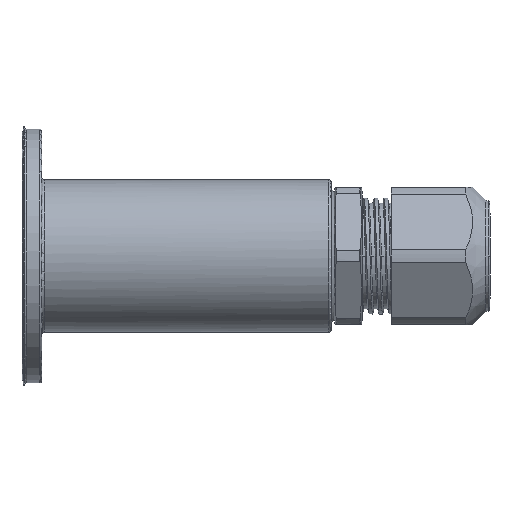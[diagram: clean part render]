
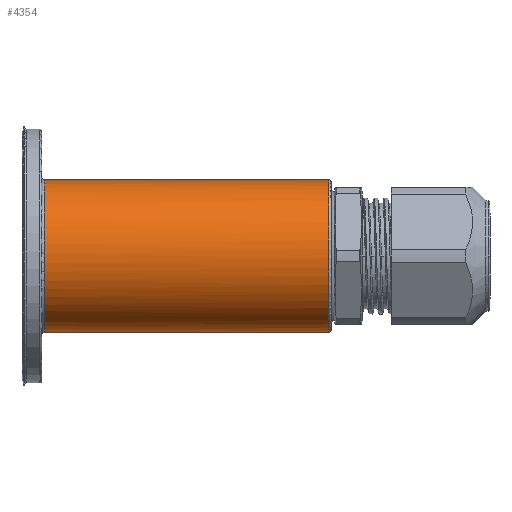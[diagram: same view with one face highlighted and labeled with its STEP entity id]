
A CAD part, front view. The second image highlights one B-rep face of the part: STEP entity #4354.
In plain terms, the highlighted cylindrical face has radius 15 mm (diameter 30 mm), a partial arc.
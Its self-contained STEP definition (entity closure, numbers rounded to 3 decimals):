
#283 = DIRECTION ( 'NONE',  ( 0., 0., 1. ) ) ;
#494 = B_SPLINE_CURVE_WITH_KNOTS ( 'NONE', 3,
 ( #5983, #3811, #590, #3667 ),
 .UNSPECIFIED., .F., .F.,
 ( 4, 4 ),
 ( 0., 1. ),
 .UNSPECIFIED. ) ;
#590 = CARTESIAN_POINT ( 'NONE',  ( 22.167, 0., -15. ) ) ;
#715 = CARTESIAN_POINT ( 'NONE',  ( 3.5, 0., 15. ) ) ;
#759 = CARTESIAN_POINT ( 'NONE',  ( 3.5, -1.963, -15. ) ) ;
#913 = ORIENTED_EDGE ( 'NONE', *, *, #1541, .F. ) ;
#960 = EDGE_CURVE ( 'NONE', #8047, #9920, #1309, .T. ) ;
#1030 = CYLINDRICAL_SURFACE ( 'NONE', #1439, 15. ) ;
#1309 = B_SPLINE_CURVE_WITH_KNOTS ( 'NONE', 3,
 ( #715, #8307, #5390, #3081, #7645, #4446, #6148, #6002, #2128, #8454, #1368, #9205, #3780, #3831, #9812, #2938, #759, #7699 ),
 .UNSPECIFIED., .F., .F.,
 ( 4, 2, 2, 2, 2, 2, 2, 2, 4 ),
 ( 0., 0.125, 0.25, 0.375, 0.5, 0.625, 0.75, 0.875, 1. ),
 .UNSPECIFIED. ) ;
#1320 = CARTESIAN_POINT ( 'NONE',  ( 59.5, -7.554, 13.107 ) ) ;
#1335 = CARTESIAN_POINT ( 'NONE',  ( 40.833, 0., 15. ) ) ;
#1368 = CARTESIAN_POINT ( 'NONE',  ( 3.5, -14.61, -3.926 ) ) ;
#1377 = ORIENTED_EDGE ( 'NONE', *, *, #9244, .T. ) ;
#1439 = AXIS2_PLACEMENT_3D ( 'NONE', #4104, #9523, #283 ) ;
#1483 = VERTEX_POINT ( 'NONE', #4308 ) ;
#1541 = EDGE_CURVE ( 'NONE', #8047, #1483, #4068, .T. ) ;
#1545 = CARTESIAN_POINT ( 'NONE',  ( 59.5, 0., -15. ) ) ;
#1818 = B_SPLINE_CURVE_WITH_KNOTS ( 'NONE', 3,
 ( #3341, #2482, #4893, #3391, #7857, #2581, #6453, #3289, #9413, #9514, #4944, #2531, #5601, #8657, #1320, #5957, #8055, #5197 ),
 .UNSPECIFIED., .F., .F.,
 ( 4, 2, 2, 2, 2, 2, 2, 2, 4 ),
 ( 0., 0.125, 0.25, 0.375, 0.5, 0.625, 0.75, 0.875, 1. ),
 .UNSPECIFIED. ) ;
#2128 = CARTESIAN_POINT ( 'NONE',  ( 3.5, -15., 1.963 ) ) ;
#2482 = CARTESIAN_POINT ( 'NONE',  ( 59.5, -1.963, -15. ) ) ;
#2531 = CARTESIAN_POINT ( 'NONE',  ( 59.5, -13.107, 7.554 ) ) ;
#2581 = CARTESIAN_POINT ( 'NONE',  ( 59.5, -11.995, -9.218 ) ) ;
#2938 = CARTESIAN_POINT ( 'NONE',  ( 3.5, -3.926, -14.61 ) ) ;
#3047 = CARTESIAN_POINT ( 'NONE',  ( 59.5, 0., 15. ) ) ;
#3081 = CARTESIAN_POINT ( 'NONE',  ( 3.5, -7.554, 13.107 ) ) ;
#3289 = CARTESIAN_POINT ( 'NONE',  ( 59.5, -14.61, -3.926 ) ) ;
#3341 = CARTESIAN_POINT ( 'NONE',  ( 59.5, 0., -15. ) ) ;
#3391 = CARTESIAN_POINT ( 'NONE',  ( 59.5, -7.554, -13.107 ) ) ;
#3667 = CARTESIAN_POINT ( 'NONE',  ( 3.5, 0., -15. ) ) ;
#3780 = CARTESIAN_POINT ( 'NONE',  ( 3.5, -11.995, -9.218 ) ) ;
#3811 = CARTESIAN_POINT ( 'NONE',  ( 40.833, 0., -15. ) ) ;
#3831 = CARTESIAN_POINT ( 'NONE',  ( 3.5, -9.218, -11.995 ) ) ;
#4068 = B_SPLINE_CURVE_WITH_KNOTS ( 'NONE', 3,
 ( #8422, #5971, #1335, #3047 ),
 .UNSPECIFIED., .F., .F.,
 ( 4, 4 ),
 ( 0., 1. ),
 .UNSPECIFIED. ) ;
#4104 = CARTESIAN_POINT ( 'NONE',  ( 0., 0., 0. ) ) ;
#4308 = CARTESIAN_POINT ( 'NONE',  ( 59.5, 0., 15. ) ) ;
#4354 = ADVANCED_FACE ( 'NONE', ( #7264 ), #1030, .T. ) ;
#4446 = CARTESIAN_POINT ( 'NONE',  ( 3.5, -11.995, 9.218 ) ) ;
#4893 = CARTESIAN_POINT ( 'NONE',  ( 59.5, -3.926, -14.61 ) ) ;
#4944 = CARTESIAN_POINT ( 'NONE',  ( 59.5, -14.61, 3.926 ) ) ;
#5197 = CARTESIAN_POINT ( 'NONE',  ( 59.5, 0., 15. ) ) ;
#5390 = CARTESIAN_POINT ( 'NONE',  ( 3.5, -3.926, 14.61 ) ) ;
#5601 = CARTESIAN_POINT ( 'NONE',  ( 59.5, -11.995, 9.218 ) ) ;
#5851 = ORIENTED_EDGE ( 'NONE', *, *, #7024, .F. ) ;
#5957 = CARTESIAN_POINT ( 'NONE',  ( 59.5, -3.926, 14.61 ) ) ;
#5971 = CARTESIAN_POINT ( 'NONE',  ( 22.167, 0., 15. ) ) ;
#5983 = CARTESIAN_POINT ( 'NONE',  ( 59.5, 0., -15. ) ) ;
#6002 = CARTESIAN_POINT ( 'NONE',  ( 3.5, -14.61, 3.926 ) ) ;
#6148 = CARTESIAN_POINT ( 'NONE',  ( 3.5, -13.107, 7.554 ) ) ;
#6453 = CARTESIAN_POINT ( 'NONE',  ( 59.5, -13.107, -7.554 ) ) ;
#7024 = EDGE_CURVE ( 'NONE', #9025, #9920, #494, .T. ) ;
#7264 = FACE_OUTER_BOUND ( 'NONE', #9215, .T. ) ;
#7645 = CARTESIAN_POINT ( 'NONE',  ( 3.5, -9.218, 11.995 ) ) ;
#7699 = CARTESIAN_POINT ( 'NONE',  ( 3.5, 0., -15. ) ) ;
#7857 = CARTESIAN_POINT ( 'NONE',  ( 59.5, -9.218, -11.995 ) ) ;
#8019 = CARTESIAN_POINT ( 'NONE',  ( 3.5, 0., -15. ) ) ;
#8047 = VERTEX_POINT ( 'NONE', #8470 ) ;
#8055 = CARTESIAN_POINT ( 'NONE',  ( 59.5, -1.963, 15. ) ) ;
#8252 = ORIENTED_EDGE ( 'NONE', *, *, #960, .T. ) ;
#8307 = CARTESIAN_POINT ( 'NONE',  ( 3.5, -1.963, 15. ) ) ;
#8422 = CARTESIAN_POINT ( 'NONE',  ( 3.5, 0., 15. ) ) ;
#8454 = CARTESIAN_POINT ( 'NONE',  ( 3.5, -15., -1.963 ) ) ;
#8470 = CARTESIAN_POINT ( 'NONE',  ( 3.5, 0., 15. ) ) ;
#8657 = CARTESIAN_POINT ( 'NONE',  ( 59.5, -9.218, 11.995 ) ) ;
#9025 = VERTEX_POINT ( 'NONE', #1545 ) ;
#9205 = CARTESIAN_POINT ( 'NONE',  ( 3.5, -13.107, -7.554 ) ) ;
#9215 = EDGE_LOOP ( 'NONE', ( #913, #8252, #5851, #1377 ) ) ;
#9244 = EDGE_CURVE ( 'NONE', #9025, #1483, #1818, .T. ) ;
#9413 = CARTESIAN_POINT ( 'NONE',  ( 59.5, -15., -1.963 ) ) ;
#9514 = CARTESIAN_POINT ( 'NONE',  ( 59.5, -15., 1.963 ) ) ;
#9523 = DIRECTION ( 'NONE',  ( -1., 0., 0. ) ) ;
#9812 = CARTESIAN_POINT ( 'NONE',  ( 3.5, -7.554, -13.107 ) ) ;
#9920 = VERTEX_POINT ( 'NONE', #8019 ) ;
